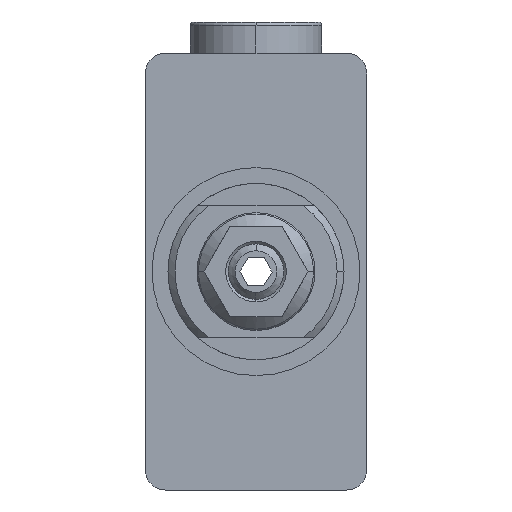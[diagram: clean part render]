
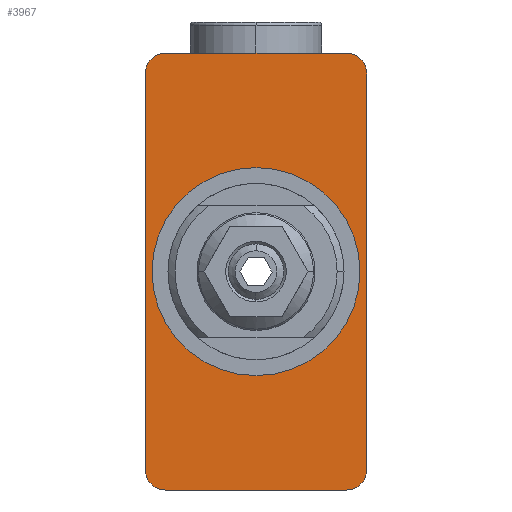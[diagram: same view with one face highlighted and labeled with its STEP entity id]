
A CAD part, left-side view. The second image highlights one B-rep face of the part: STEP entity #3967.
In plain terms, the highlighted planar face has unit normal (-1, 0, 0).
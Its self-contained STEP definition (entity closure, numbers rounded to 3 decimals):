
#43 = VECTOR ( 'NONE', #3074, 1000. ) ;
#64 = EDGE_CURVE ( 'NONE', #952, #2439, #2484, .T. ) ;
#75 = DIRECTION ( 'NONE',  ( 0., 0., -1. ) ) ;
#165 = DIRECTION ( 'NONE',  ( 0., -1., 0. ) ) ;
#464 = LINE ( 'NONE', #1715, #43 ) ;
#715 = FACE_BOUND ( 'NONE', #1231, .T. ) ;
#763 = EDGE_CURVE ( 'NONE', #3135, #2439, #464, .T. ) ;
#778 = EDGE_CURVE ( 'NONE', #5666, #3839, #3242, .T. ) ;
#872 = CARTESIAN_POINT ( 'NONE',  ( -76., -13., -28.5 ) ) ;
#946 = DIRECTION ( 'NONE',  ( 0., 0., -1. ) ) ;
#952 = VERTEX_POINT ( 'NONE', #4199 ) ;
#973 = DIRECTION ( 'NONE',  ( -1., 0., 0. ) ) ;
#1121 = VERTEX_POINT ( 'NONE', #3654 ) ;
#1165 = DIRECTION ( 'NONE',  ( 0., 0., -1. ) ) ;
#1188 = CIRCLE ( 'NONE', #5520, 3. ) ;
#1204 = ORIENTED_EDGE ( 'NONE', *, *, #4189, .T. ) ;
#1207 = AXIS2_PLACEMENT_3D ( 'NONE', #3987, #973, #946 ) ;
#1231 = EDGE_LOOP ( 'NONE', ( #2331, #2339 ) ) ;
#1292 = DIRECTION ( 'NONE',  ( -1., 0., 0. ) ) ;
#1318 = LINE ( 'NONE', #4309, #5160 ) ;
#1441 = DIRECTION ( 'NONE',  ( -1., 0., 0. ) ) ;
#1495 = CARTESIAN_POINT ( 'NONE',  ( -76., 15., 0. ) ) ;
#1506 = CARTESIAN_POINT ( 'NONE',  ( -76., 16., 31.5 ) ) ;
#1513 = DIRECTION ( 'NONE',  ( 0., -1., 0. ) ) ;
#1542 = CARTESIAN_POINT ( 'NONE',  ( -76., 0., 0. ) ) ;
#1558 = VECTOR ( 'NONE', #165, 1000. ) ;
#1582 = CARTESIAN_POINT ( 'NONE',  ( -76., -13., -31.5 ) ) ;
#1593 = FACE_OUTER_BOUND ( 'NONE', #5017, .T. ) ;
#1617 = DIRECTION ( 'NONE',  ( 1., 0., 0. ) ) ;
#1714 = CARTESIAN_POINT ( 'NONE',  ( -76., 16., 31.5 ) ) ;
#1715 = CARTESIAN_POINT ( 'NONE',  ( -76., 16., 31.5 ) ) ;
#1815 = CARTESIAN_POINT ( 'NONE',  ( -76., 13., -28.5 ) ) ;
#1892 = CARTESIAN_POINT ( 'NONE',  ( -76., 16., -31.5 ) ) ;
#1929 = CIRCLE ( 'NONE', #3854, 3. ) ;
#1951 = AXIS2_PLACEMENT_3D ( 'NONE', #872, #3880, #75 ) ;
#2147 = EDGE_CURVE ( 'NONE', #3839, #3451, #1318, .T. ) ;
#2203 = DIRECTION ( 'NONE',  ( 0., 0., 1. ) ) ;
#2270 = ORIENTED_EDGE ( 'NONE', *, *, #778, .T. ) ;
#2331 = ORIENTED_EDGE ( 'NONE', *, *, #3114, .F. ) ;
#2339 = ORIENTED_EDGE ( 'NONE', *, *, #3615, .F. ) ;
#2376 = ORIENTED_EDGE ( 'NONE', *, *, #763, .F. ) ;
#2384 = LINE ( 'NONE', #1892, #1558 ) ;
#2439 = VERTEX_POINT ( 'NONE', #5491 ) ;
#2484 = CIRCLE ( 'NONE', #1207, 3. ) ;
#2583 = ORIENTED_EDGE ( 'NONE', *, *, #3297, .F. ) ;
#2644 = DIRECTION ( 'NONE',  ( 0., 0., -1. ) ) ;
#2675 = ORIENTED_EDGE ( 'NONE', *, *, #4361, .T. ) ;
#2690 = CARTESIAN_POINT ( 'NONE',  ( -76., -16., -28.5 ) ) ;
#2826 = PLANE ( 'NONE',  #5148 ) ;
#2959 = CARTESIAN_POINT ( 'NONE',  ( -76., 16., -28.5 ) ) ;
#2991 = ORIENTED_EDGE ( 'NONE', *, *, #2147, .T. ) ;
#3074 = DIRECTION ( 'NONE',  ( 0., 0., 1. ) ) ;
#3114 = EDGE_CURVE ( 'NONE', #3520, #5506, #4153, .T. ) ;
#3135 = VERTEX_POINT ( 'NONE', #2959 ) ;
#3242 = CIRCLE ( 'NONE', #1951, 3. ) ;
#3272 = CARTESIAN_POINT ( 'NONE',  ( -76., -15., 0. ) ) ;
#3297 = EDGE_CURVE ( 'NONE', #952, #5059, #5190, .T. ) ;
#3451 = VERTEX_POINT ( 'NONE', #5010 ) ;
#3469 = DIRECTION ( 'NONE',  ( 0., -1., 0. ) ) ;
#3471 = CARTESIAN_POINT ( 'NONE',  ( -76., -13., 28.5 ) ) ;
#3520 = VERTEX_POINT ( 'NONE', #3272 ) ;
#3577 = CARTESIAN_POINT ( 'NONE',  ( -76., -13., 31.5 ) ) ;
#3615 = EDGE_CURVE ( 'NONE', #5506, #3520, #3956, .T. ) ;
#3654 = CARTESIAN_POINT ( 'NONE',  ( -76., 13., -31.5 ) ) ;
#3698 = CARTESIAN_POINT ( 'NONE',  ( -76., 0., 0. ) ) ;
#3709 = ORIENTED_EDGE ( 'NONE', *, *, #64, .T. ) ;
#3839 = VERTEX_POINT ( 'NONE', #2690 ) ;
#3854 = AXIS2_PLACEMENT_3D ( 'NONE', #3471, #1292, #4381 ) ;
#3880 = DIRECTION ( 'NONE',  ( -1., 0., 0. ) ) ;
#3956 = CIRCLE ( 'NONE', #5434, 15. ) ;
#3967 = ADVANCED_FACE ( 'NONE', ( #1593, #715 ), #2826, .F. ) ;
#3987 = CARTESIAN_POINT ( 'NONE',  ( -76., 13., 28.5 ) ) ;
#4052 = VECTOR ( 'NONE', #3469, 1000. ) ;
#4153 = CIRCLE ( 'NONE', #4891, 15. ) ;
#4189 = EDGE_CURVE ( 'NONE', #3135, #1121, #1188, .T. ) ;
#4199 = CARTESIAN_POINT ( 'NONE',  ( -76., 13., 31.5 ) ) ;
#4309 = CARTESIAN_POINT ( 'NONE',  ( -76., -16., 31.5 ) ) ;
#4361 = EDGE_CURVE ( 'NONE', #3451, #5059, #1929, .T. ) ;
#4381 = DIRECTION ( 'NONE',  ( 0., 0., -1. ) ) ;
#4663 = DIRECTION ( 'NONE',  ( -1., 0., 0. ) ) ;
#4891 = AXIS2_PLACEMENT_3D ( 'NONE', #1542, #4663, #5072 ) ;
#5010 = CARTESIAN_POINT ( 'NONE',  ( -76., -16., 28.5 ) ) ;
#5017 = EDGE_LOOP ( 'NONE', ( #5519, #2270, #2991, #2675, #2583, #3709, #2376, #1204 ) ) ;
#5059 = VERTEX_POINT ( 'NONE', #3577 ) ;
#5072 = DIRECTION ( 'NONE',  ( 0., -1., 0. ) ) ;
#5148 = AXIS2_PLACEMENT_3D ( 'NONE', #1506, #1617, #1165 ) ;
#5160 = VECTOR ( 'NONE', #2203, 1000. ) ;
#5190 = LINE ( 'NONE', #1714, #4052 ) ;
#5434 = AXIS2_PLACEMENT_3D ( 'NONE', #3698, #5516, #1513 ) ;
#5474 = EDGE_CURVE ( 'NONE', #1121, #5666, #2384, .T. ) ;
#5491 = CARTESIAN_POINT ( 'NONE',  ( -76., 16., 28.5 ) ) ;
#5506 = VERTEX_POINT ( 'NONE', #1495 ) ;
#5516 = DIRECTION ( 'NONE',  ( -1., 0., 0. ) ) ;
#5519 = ORIENTED_EDGE ( 'NONE', *, *, #5474, .T. ) ;
#5520 = AXIS2_PLACEMENT_3D ( 'NONE', #1815, #1441, #2644 ) ;
#5666 = VERTEX_POINT ( 'NONE', #1582 ) ;
